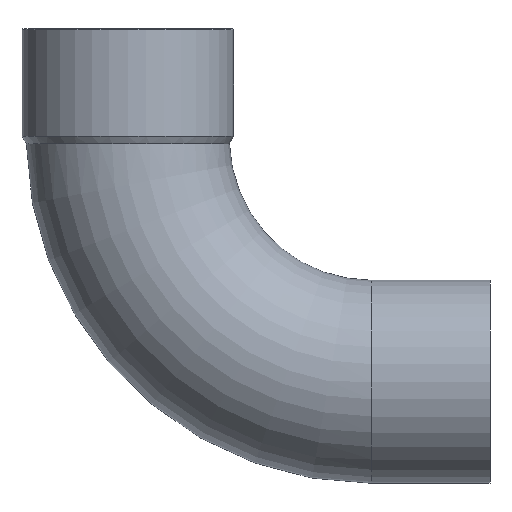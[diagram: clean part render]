
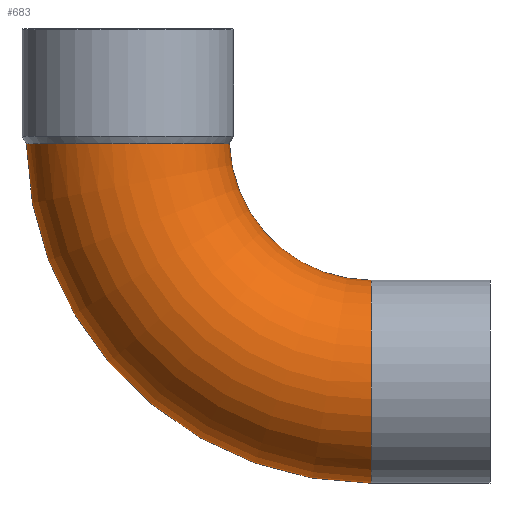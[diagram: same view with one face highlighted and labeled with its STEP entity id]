
A CAD part, front view. The second image highlights one B-rep face of the part: STEP entity #683.
In plain terms, the highlighted toroidal (fillet/blend) face has major radius 80.04 mm and minor radius 33.35 mm.
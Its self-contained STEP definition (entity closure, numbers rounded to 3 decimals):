
#49=CARTESIAN_POINT('',(-91.34,0.,-1.867));
#50=VERTEX_POINT('',#49);
#51=CARTESIAN_POINT('',(22.035,0.,-113.39));
#52=VERTEX_POINT('',#51);
#53=CARTESIAN_POINT('',(22.035,0.,0.0));
#54=DIRECTION('',(0.0,-1.0,0.0));
#55=DIRECTION('',(0.0,0.0,-1.0));
#56=AXIS2_PLACEMENT_3D('',#53,#54,#55);
#57=CIRCLE('',#56,113.39);
#58=EDGE_CURVE('',#50,#52,#57,.T.);
#60=CARTESIAN_POINT('',(-24.621,0.,-1.781));
#61=VERTEX_POINT('',#60);
#85=CARTESIAN_POINT('',(22.035,0.,-46.69));
#86=VERTEX_POINT('',#85);
#87=CARTESIAN_POINT('',(22.035,0.,0.0));
#88=DIRECTION('',(0.0,1.0,0.0));
#89=DIRECTION('',(0.0,0.0,-1.0));
#90=AXIS2_PLACEMENT_3D('',#87,#88,#89);
#91=CIRCLE('',#90,46.69);
#92=EDGE_CURVE('',#86,#61,#91,.T.);
#212=CARTESIAN_POINT('',(-24.621,0.,-1.781));
#213=CARTESIAN_POINT('',(-24.621,-0.29,-1.781));
#214=CARTESIAN_POINT('',(-24.625,-0.581,-1.781));
#215=CARTESIAN_POINT('',(-24.746,-5.212,-1.781));
#216=CARTESIAN_POINT('',(-25.706,-9.488,-1.784));
#217=CARTESIAN_POINT('',(-29.214,-17.435,-1.793));
#218=CARTESIAN_POINT('',(-31.728,-21.028,-1.799));
#219=CARTESIAN_POINT('',(-37.992,-27.05,-1.812));
#220=CARTESIAN_POINT('',(-41.683,-29.42,-1.818));
#221=CARTESIAN_POINT('',(-49.766,-32.613,-1.83));
#222=CARTESIAN_POINT('',(-54.08,-33.404,-1.836));
#223=CARTESIAN_POINT('',(-62.768,-33.29,-1.845));
#224=CARTESIAN_POINT('',(-67.058,-32.385,-1.849));
#225=CARTESIAN_POINT('',(-75.051,-28.981,-1.856));
#226=CARTESIAN_POINT('',(-78.676,-26.516,-1.858));
#227=CARTESIAN_POINT('',(-84.777,-20.334,-1.863));
#228=CARTESIAN_POINT('',(-87.194,-16.677,-1.864));
#229=CARTESIAN_POINT('',(-90.491,-8.643,-1.866));
#230=CARTESIAN_POINT('',(-91.34,-4.342,-1.867));
#231=CARTESIAN_POINT('',(-91.34,0.,-1.867));
#232=B_SPLINE_CURVE_WITH_KNOTS('',3,(#212,#213,#214,#215,#216,#217,#218,#219,#220,#221,#222,#223,#224,#225,#226,#227,#228,#229,#230,#231),.UNSPECIFIED.,.F.,.U.,(4,2,2,2,2,2,2,2,2,4),(-10.511,-10.424,-9.122,-7.818,-6.515,-5.211,-3.908,-2.605,-1.303,0.0),.UNSPECIFIED.);
#233=EDGE_CURVE('',#61,#50,#232,.T.);
#539=CARTESIAN_POINT('',(22.035,0.,-80.04));
#540=DIRECTION('',(-1.0,0.0,0.0));
#541=DIRECTION('',(0.0,0.0,-1.0));
#542=AXIS2_PLACEMENT_3D('',#539,#540,#541);
#543=CIRCLE('',#542,33.35);
#544=EDGE_CURVE('',#52,#86,#543,.T.);
#672=CARTESIAN_POINT('',(22.035,0.,0.0));
#673=DIRECTION('',(0.0,-1.0,0.0));
#674=DIRECTION('',(0.0,0.0,-1.0));
#675=AXIS2_PLACEMENT_3D('',#672,#673,#674);
#676=TOROIDAL_SURFACE('',#675,80.04,33.35);
#677=ORIENTED_EDGE('',*,*,#58,.T.);
#678=ORIENTED_EDGE('',*,*,#544,.T.);
#679=ORIENTED_EDGE('',*,*,#92,.T.);
#680=ORIENTED_EDGE('',*,*,#233,.T.);
#681=EDGE_LOOP('',(#677,#678,#679,#680));
#682=FACE_OUTER_BOUND('',#681,.T.);
#683=ADVANCED_FACE('',(#682),#676,.T.);
